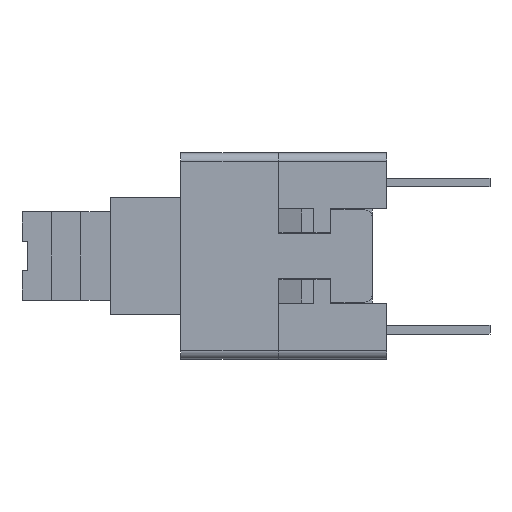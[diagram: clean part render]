
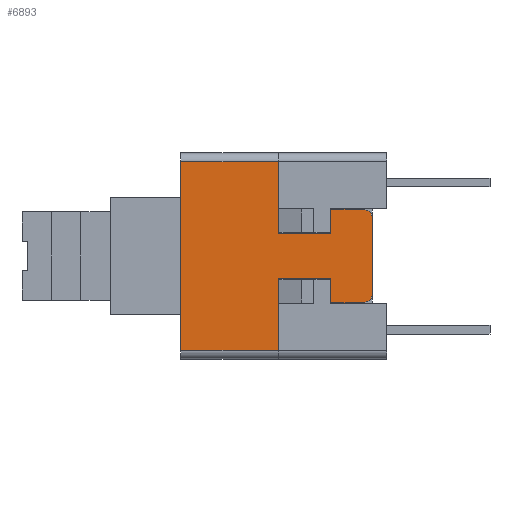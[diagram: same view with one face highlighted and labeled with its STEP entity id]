
A CAD part, left-side view. The second image highlights one B-rep face of the part: STEP entity #6893.
In plain terms, the highlighted planar face has unit normal (-1, 0, 0).
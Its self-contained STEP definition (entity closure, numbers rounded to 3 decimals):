
#1215=DIRECTION('',(0.,0.,1.));
#1216=VECTOR('',#1215,6.4);
#1217=CARTESIAN_POINT('',(-3.5,7.,-3.2));
#1218=LINE('',#1217,#1216);
#1493=DIRECTION('',(0.,-1.,0.));
#1494=VECTOR('',#1493,3.3);
#1495=CARTESIAN_POINT('',(-3.5,7.,-3.2));
#1496=LINE('',#1495,#1494);
#1497=DIRECTION('',(0.,-1.,0.));
#1498=VECTOR('',#1497,3.3);
#1499=CARTESIAN_POINT('',(-3.5,7.,3.2));
#1500=LINE('',#1499,#1498);
#1501=DIRECTION('',(0.,0.,-1.));
#1502=VECTOR('',#1501,2.4);
#1503=CARTESIAN_POINT('',(-3.5,3.7,3.2));
#1504=LINE('',#1503,#1502);
#1505=DIRECTION('',(0.,1.,0.));
#1506=VECTOR('',#1505,0.01);
#1507=CARTESIAN_POINT('',(-3.5,3.69,0.8));
#1508=LINE('',#1507,#1506);
#1509=DIRECTION('',(0.,0.,1.));
#1510=VECTOR('',#1509,0.02);
#1511=CARTESIAN_POINT('',(-3.5,3.69,0.78));
#1512=LINE('',#1511,#1510);
#1513=DIRECTION('',(0.,1.,0.));
#1514=VECTOR('',#1513,1.777);
#1515=CARTESIAN_POINT('',(-3.5,1.913,0.78));
#1516=LINE('',#1515,#1514);
#1517=DIRECTION('',(0.,0.,-1.));
#1518=VECTOR('',#1517,0.8);
#1519=CARTESIAN_POINT('',(-3.5,1.913,1.58));
#1520=LINE('',#1519,#1518);
#1521=DIRECTION('',(0.,1.,0.));
#1522=VECTOR('',#1521,1.113);
#1523=CARTESIAN_POINT('',(-3.5,0.8,1.58));
#1524=LINE('',#1523,#1522);
#1525=CARTESIAN_POINT('',(-3.5,0.8,1.28));
#1526=DIRECTION('',(-1.,0.,0.));
#1527=DIRECTION('',(0.,-1.,0.));
#1528=AXIS2_PLACEMENT_3D('',#1525,#1526,#1527);
#1530=DIRECTION('',(0.,0.,-1.));
#1531=VECTOR('',#1530,2.56);
#1532=CARTESIAN_POINT('',(-3.5,0.5,1.28));
#1533=LINE('',#1532,#1531);
#1534=CARTESIAN_POINT('',(-3.5,0.8,-1.28));
#1535=DIRECTION('',(-1.,0.,0.));
#1536=DIRECTION('',(0.,0.,-1.));
#1537=AXIS2_PLACEMENT_3D('',#1534,#1535,#1536);
#1539=DIRECTION('',(0.,1.,0.));
#1540=VECTOR('',#1539,1.113);
#1541=CARTESIAN_POINT('',(-3.5,0.8,-1.58));
#1542=LINE('',#1541,#1540);
#1543=DIRECTION('',(0.,0.,1.));
#1544=VECTOR('',#1543,0.8);
#1545=CARTESIAN_POINT('',(-3.5,1.913,-1.58));
#1546=LINE('',#1545,#1544);
#1547=DIRECTION('',(0.,1.,0.));
#1548=VECTOR('',#1547,1.777);
#1549=CARTESIAN_POINT('',(-3.5,1.913,-0.78));
#1550=LINE('',#1549,#1548);
#1551=DIRECTION('',(0.,0.,-1.));
#1552=VECTOR('',#1551,0.02);
#1553=CARTESIAN_POINT('',(-3.5,3.69,-0.78));
#1554=LINE('',#1553,#1552);
#1555=DIRECTION('',(0.,1.,0.));
#1556=VECTOR('',#1555,0.01);
#1557=CARTESIAN_POINT('',(-3.5,3.69,-0.8));
#1558=LINE('',#1557,#1556);
#1559=DIRECTION('',(0.,0.,1.));
#1560=VECTOR('',#1559,2.4);
#1561=CARTESIAN_POINT('',(-3.5,3.7,-3.2));
#1562=LINE('',#1561,#1560);
#4242=CARTESIAN_POINT('',(-3.5,3.7,0.8));
#4244=VERTEX_POINT('',#4242);
#4246=CARTESIAN_POINT('',(-3.5,3.7,-0.8));
#4248=VERTEX_POINT('',#4246);
#4331=CARTESIAN_POINT('',(-3.5,1.913,-1.58));
#4332=CARTESIAN_POINT('',(-3.5,1.913,-0.78));
#4333=VERTEX_POINT('',#4331);
#4334=VERTEX_POINT('',#4332);
#4335=CARTESIAN_POINT('',(-3.5,3.69,-0.78));
#4336=VERTEX_POINT('',#4335);
#4351=CARTESIAN_POINT('',(-3.5,3.69,-0.8));
#4352=VERTEX_POINT('',#4351);
#4367=CARTESIAN_POINT('',(-3.5,1.913,1.58));
#4368=VERTEX_POINT('',#4367);
#4369=CARTESIAN_POINT('',(-3.5,1.913,0.78));
#4370=VERTEX_POINT('',#4369);
#4371=CARTESIAN_POINT('',(-3.5,3.69,0.78));
#4372=VERTEX_POINT('',#4371);
#4379=CARTESIAN_POINT('',(-3.5,3.69,0.8));
#4380=VERTEX_POINT('',#4379);
#4449=CARTESIAN_POINT('',(-3.5,0.5,1.28));
#4450=CARTESIAN_POINT('',(-3.5,0.8,1.58));
#4451=VERTEX_POINT('',#4449);
#4452=VERTEX_POINT('',#4450);
#4457=CARTESIAN_POINT('',(-3.5,0.8,-1.58));
#4459=VERTEX_POINT('',#4457);
#4461=CARTESIAN_POINT('',(-3.5,0.5,-1.28));
#4462=VERTEX_POINT('',#4461);
#4577=CARTESIAN_POINT('',(-3.5,3.7,-3.2));
#4579=VERTEX_POINT('',#4577);
#4583=CARTESIAN_POINT('',(-3.5,7.,-3.2));
#4584=VERTEX_POINT('',#4583);
#4602=CARTESIAN_POINT('',(-3.5,3.7,3.2));
#4604=VERTEX_POINT('',#4602);
#4605=CARTESIAN_POINT('',(-3.5,7.,3.2));
#4606=VERTEX_POINT('',#4605);
#6855=CARTESIAN_POINT('',(-3.5,0.,-3.5));
#6856=DIRECTION('',(-1.,0.,0.));
#6857=DIRECTION('',(0.,0.,1.));
#6858=AXIS2_PLACEMENT_3D('',#6855,#6856,#6857);
#6859=PLANE('',#6858);
#6860=ORIENTED_EDGE('',*,*,#6427,.F.);
#6861=ORIENTED_EDGE('',*,*,#6441,.T.);
#6862=ORIENTED_EDGE('',*,*,#6816,.T.);
#6863=ORIENTED_EDGE('',*,*,#5734,.T.);
#6865=ORIENTED_EDGE('',*,*,#6864,.F.);
#6867=ORIENTED_EDGE('',*,*,#6866,.F.);
#6869=ORIENTED_EDGE('',*,*,#6868,.F.);
#6871=ORIENTED_EDGE('',*,*,#6870,.F.);
#6873=ORIENTED_EDGE('',*,*,#6872,.F.);
#6875=ORIENTED_EDGE('',*,*,#6874,.F.);
#6877=ORIENTED_EDGE('',*,*,#6876,.T.);
#6879=ORIENTED_EDGE('',*,*,#6878,.F.);
#6881=ORIENTED_EDGE('',*,*,#6880,.T.);
#6883=ORIENTED_EDGE('',*,*,#6882,.T.);
#6885=ORIENTED_EDGE('',*,*,#6884,.T.);
#6887=ORIENTED_EDGE('',*,*,#6886,.T.);
#6889=ORIENTED_EDGE('',*,*,#6888,.T.);
#6890=ORIENTED_EDGE('',*,*,#6410,.F.);
#6891=EDGE_LOOP('',(#6860,#6861,#6862,#6863,#6865,#6867,#6869,#6871,#6873,#6875,
#6877,#6879,#6881,#6883,#6885,#6887,#6889,#6890));
#6892=FACE_OUTER_BOUND('',#6891,.F.);
#1529=CIRCLE('',#1528,0.3);
#1538=CIRCLE('',#1537,0.3);
#5734=EDGE_CURVE('',#4604,#4244,#1504,.T.);
#6410=EDGE_CURVE('',#4579,#4248,#1562,.T.);
#6427=EDGE_CURVE('',#4584,#4579,#1496,.T.);
#6441=EDGE_CURVE('',#4584,#4606,#1218,.T.);
#6816=EDGE_CURVE('',#4606,#4604,#1500,.T.);
#6864=EDGE_CURVE('',#4380,#4244,#1508,.T.);
#6866=EDGE_CURVE('',#4372,#4380,#1512,.T.);
#6868=EDGE_CURVE('',#4370,#4372,#1516,.T.);
#6870=EDGE_CURVE('',#4368,#4370,#1520,.T.);
#6872=EDGE_CURVE('',#4452,#4368,#1524,.T.);
#6874=EDGE_CURVE('',#4451,#4452,#1529,.T.);
#6876=EDGE_CURVE('',#4451,#4462,#1533,.T.);
#6878=EDGE_CURVE('',#4459,#4462,#1538,.T.);
#6880=EDGE_CURVE('',#4459,#4333,#1542,.T.);
#6882=EDGE_CURVE('',#4333,#4334,#1546,.T.);
#6884=EDGE_CURVE('',#4334,#4336,#1550,.T.);
#6886=EDGE_CURVE('',#4336,#4352,#1554,.T.);
#6888=EDGE_CURVE('',#4352,#4248,#1558,.T.);
#6893=ADVANCED_FACE('',(#6892),#6859,.T.);
